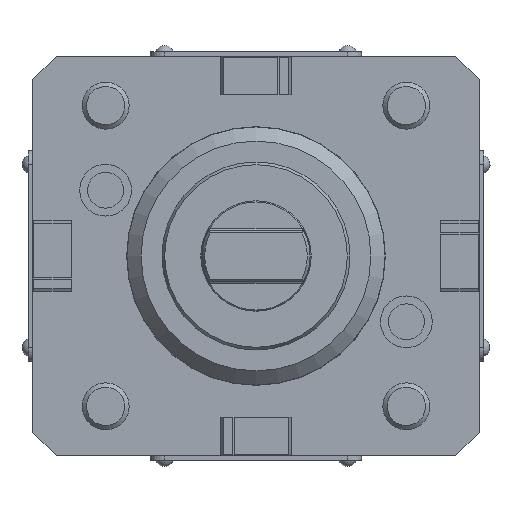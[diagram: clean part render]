
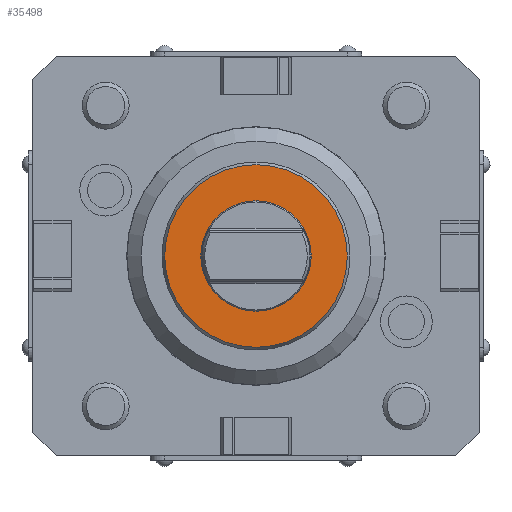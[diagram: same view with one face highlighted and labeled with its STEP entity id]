
A CAD part, left-side view. The second image highlights one B-rep face of the part: STEP entity #35498.
In plain terms, the highlighted planar face has unit normal (-1, 0, 0).
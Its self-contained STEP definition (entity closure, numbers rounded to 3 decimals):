
#15292=CIRCLE('',#34160,19.423);
#15293=CIRCLE('',#34162,11.75);
#16849=ORIENTED_EDGE('',*,*,#22051,.T.);
#16850=ORIENTED_EDGE('',*,*,#22052,.T.);
#20845=VERTEX_POINT('',#31361);
#20846=VERTEX_POINT('',#31364);
#22051=EDGE_CURVE('',#20845,#20845,#15292,.T.);
#22052=EDGE_CURVE('',#20846,#20846,#15293,.T.);
#23255=EDGE_LOOP('',(#16849));
#23256=EDGE_LOOP('',(#16850));
#24143=FACE_BOUND('',#23255,.T.);
#24144=FACE_BOUND('',#23256,.T.);
#25877=DIRECTION('',(-1.,0.,0.));
#25878=DIRECTION('',(0.,19.423,0.));
#25879=DIRECTION('',(-1.,0.,0.));
#25880=DIRECTION('',(0.,1.,0.));
#25881=DIRECTION('',(1.,0.,0.));
#25882=DIRECTION('',(0.,0.,11.75));
#31361=CARTESIAN_POINT('',(-54.,19.423,0.));
#31362=CARTESIAN_POINT('',(-54.,0.,0.));
#31363=CARTESIAN_POINT('',(-54.,19.423,0.));
#31364=CARTESIAN_POINT('',(-54.,0.,11.75));
#31365=CARTESIAN_POINT('',(-54.,0.,0.));
#34160=AXIS2_PLACEMENT_3D('',#31362,#25877,#25878);
#34161=AXIS2_PLACEMENT_3D('',#31363,#25879,#25880);
#34162=AXIS2_PLACEMENT_3D('',#31365,#25881,#25882);
#34969=PLANE('',#34161);
#35498=ADVANCED_FACE('',(#24143,#24144),#34969,.T.);
